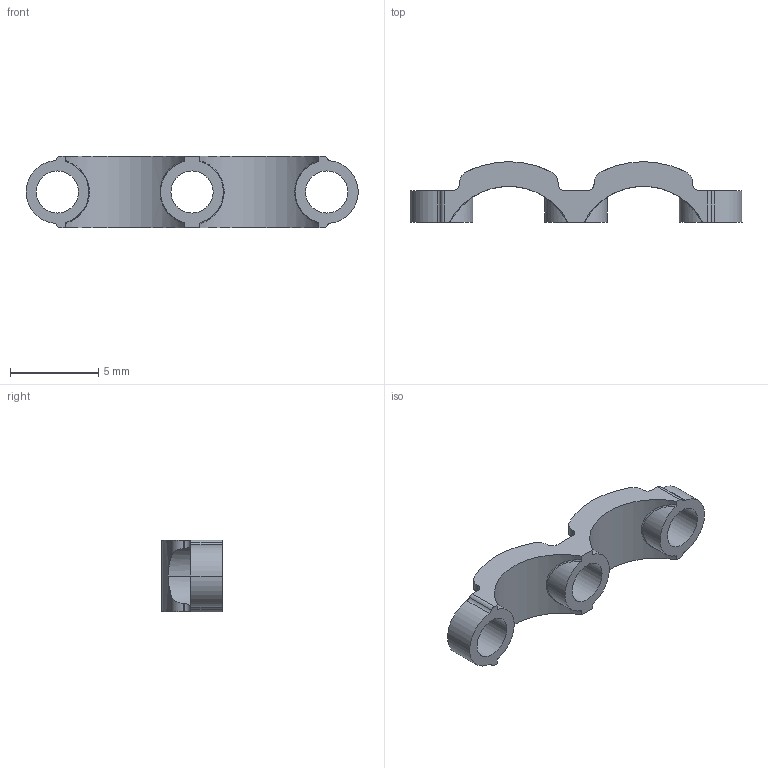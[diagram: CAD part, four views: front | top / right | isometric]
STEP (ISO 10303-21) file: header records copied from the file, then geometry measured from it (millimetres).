
FILE_DESCRIPTION (( 'STEP AP214' ), '1' );
FILE_NAME ('LHDX0307130A A3.step', '2020-04-17T12:33:51', ( '' ), ( '' ), 'SwSTEP 2.0', 'SolidWorks 2019', '' );
FILE_SCHEMA (( 'AUTOMOTIVE_DESIGN' ));
Length unit declared in the file: inch
Products named in the file (1): LHDX0307130A A3
Bounding box: 18.79 x 3.43 x 4.06 mm (x, y, z)
Volume: 90.2 mm3; surface area: 268.3 mm2
Topology: 1 solids, 1 shells, 69 faces, 201 edges, 134 vertices
Faces by surface type: cylinder 49, plane 16, bspline 4
Entity records: 3009 total; most frequent: CARTESIAN_POINT 1153, ORIENTED_EDGE 402, DIRECTION 363, EDGE_CURVE 201, AXIS2_PLACEMENT_3D 136, VERTEX_POINT 134, LINE 91, VECTOR 91
